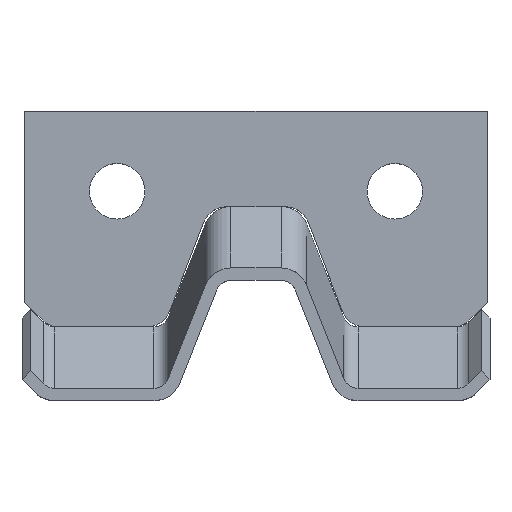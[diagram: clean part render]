
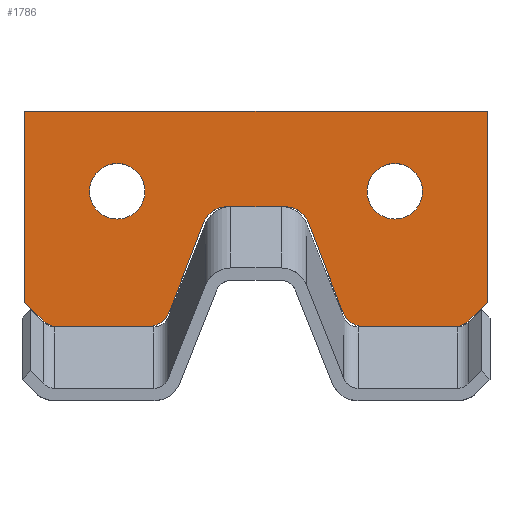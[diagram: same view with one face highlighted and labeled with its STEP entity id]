
A CAD part, top view. The second image highlights one B-rep face of the part: STEP entity #1786.
In plain terms, the highlighted planar face has unit normal (0, 0, 1).
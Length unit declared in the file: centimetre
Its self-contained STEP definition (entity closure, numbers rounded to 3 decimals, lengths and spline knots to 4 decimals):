
#86=FACE_BOUND('',#203,.T.);
#87=FACE_BOUND('',#204,.T.);
#94=FACE_OUTER_BOUND('',#202,.T.);
#202=EDGE_LOOP('',(#1188,#1189,#1190,#1191,#1192,#1193,#1194,#1195,#1196,
#1197,#1198,#1199,#1200,#1201,#1202,#1203,#1204,#1205));
#203=EDGE_LOOP('',(#1206));
#204=EDGE_LOOP('',(#1207));
#318=CIRCLE('',#1897,0.8);
#319=CIRCLE('',#1898,0.8);
#320=CIRCLE('',#1899,0.8);
#321=CIRCLE('',#1900,0.8);
#322=CIRCLE('',#1901,0.8);
#323=CIRCLE('',#1902,0.8);
#324=CIRCLE('',#1903,0.9);
#325=CIRCLE('',#1904,0.9);
#362=LINE('',#2630,#562);
#363=LINE('',#2634,#563);
#364=LINE('',#2638,#564);
#365=LINE('',#2642,#565);
#366=LINE('',#2644,#566);
#367=LINE('',#2646,#567);
#368=LINE('',#2648,#568);
#369=LINE('',#2650,#569);
#370=LINE('',#2654,#570);
#371=LINE('',#2658,#571);
#372=LINE('',#2662,#572);
#373=LINE('',#2663,#573);
#562=VECTOR('',#2076,0.1);
#563=VECTOR('',#2079,0.1);
#564=VECTOR('',#2082,0.1);
#565=VECTOR('',#2085,0.1);
#566=VECTOR('',#2086,0.1);
#567=VECTOR('',#2087,0.1);
#568=VECTOR('',#2088,0.1);
#569=VECTOR('',#2089,0.1);
#570=VECTOR('',#2092,0.1);
#571=VECTOR('',#2095,0.1);
#572=VECTOR('',#2098,0.1);
#573=VECTOR('',#2099,0.1);
#762=VERTEX_POINT('',#2628);
#763=VERTEX_POINT('',#2629);
#764=VERTEX_POINT('',#2631);
#765=VERTEX_POINT('',#2633);
#766=VERTEX_POINT('',#2635);
#767=VERTEX_POINT('',#2637);
#768=VERTEX_POINT('',#2639);
#769=VERTEX_POINT('',#2641);
#770=VERTEX_POINT('',#2643);
#771=VERTEX_POINT('',#2645);
#772=VERTEX_POINT('',#2647);
#773=VERTEX_POINT('',#2649);
#774=VERTEX_POINT('',#2651);
#775=VERTEX_POINT('',#2653);
#776=VERTEX_POINT('',#2655);
#777=VERTEX_POINT('',#2657);
#778=VERTEX_POINT('',#2659);
#779=VERTEX_POINT('',#2661);
#780=VERTEX_POINT('',#2664);
#781=VERTEX_POINT('',#2666);
#920=EDGE_CURVE('',#762,#763,#362,.T.);
#921=EDGE_CURVE('',#763,#764,#318,.T.);
#922=EDGE_CURVE('',#764,#765,#363,.T.);
#923=EDGE_CURVE('',#765,#766,#319,.T.);
#924=EDGE_CURVE('',#767,#766,#364,.T.);
#925=EDGE_CURVE('',#767,#768,#320,.T.);
#926=EDGE_CURVE('',#768,#769,#365,.T.);
#927=EDGE_CURVE('',#769,#770,#366,.T.);
#928=EDGE_CURVE('',#770,#771,#367,.T.);
#929=EDGE_CURVE('',#771,#772,#368,.T.);
#930=EDGE_CURVE('',#772,#773,#369,.T.);
#931=EDGE_CURVE('',#773,#774,#321,.T.);
#932=EDGE_CURVE('',#775,#774,#370,.T.);
#933=EDGE_CURVE('',#775,#776,#322,.T.);
#934=EDGE_CURVE('',#776,#777,#371,.T.);
#935=EDGE_CURVE('',#777,#778,#323,.T.);
#936=EDGE_CURVE('',#778,#779,#372,.T.);
#937=EDGE_CURVE('',#762,#779,#373,.T.);
#938=EDGE_CURVE('',#780,#780,#324,.T.);
#939=EDGE_CURVE('',#781,#781,#325,.T.);
#1188=ORIENTED_EDGE('',*,*,#920,.T.);
#1189=ORIENTED_EDGE('',*,*,#921,.T.);
#1190=ORIENTED_EDGE('',*,*,#922,.T.);
#1191=ORIENTED_EDGE('',*,*,#923,.T.);
#1192=ORIENTED_EDGE('',*,*,#924,.F.);
#1193=ORIENTED_EDGE('',*,*,#925,.T.);
#1194=ORIENTED_EDGE('',*,*,#926,.T.);
#1195=ORIENTED_EDGE('',*,*,#927,.T.);
#1196=ORIENTED_EDGE('',*,*,#928,.T.);
#1197=ORIENTED_EDGE('',*,*,#929,.T.);
#1198=ORIENTED_EDGE('',*,*,#930,.T.);
#1199=ORIENTED_EDGE('',*,*,#931,.T.);
#1200=ORIENTED_EDGE('',*,*,#932,.F.);
#1201=ORIENTED_EDGE('',*,*,#933,.T.);
#1202=ORIENTED_EDGE('',*,*,#934,.T.);
#1203=ORIENTED_EDGE('',*,*,#935,.T.);
#1204=ORIENTED_EDGE('',*,*,#936,.T.);
#1205=ORIENTED_EDGE('',*,*,#937,.F.);
#1206=ORIENTED_EDGE('',*,*,#938,.T.);
#1207=ORIENTED_EDGE('',*,*,#939,.T.);
#1724=PLANE('',#1896);
#1786=ADVANCED_FACE('',(#94,#86,#87),#1724,.T.);
#1896=AXIS2_PLACEMENT_3D('',#2627,#2074,#2075);
#1897=AXIS2_PLACEMENT_3D('',#2632,#2077,#2078);
#1898=AXIS2_PLACEMENT_3D('',#2636,#2080,#2081);
#1899=AXIS2_PLACEMENT_3D('',#2640,#2083,#2084);
#1900=AXIS2_PLACEMENT_3D('',#2652,#2090,#2091);
#1901=AXIS2_PLACEMENT_3D('',#2656,#2093,#2094);
#1902=AXIS2_PLACEMENT_3D('',#2660,#2096,#2097);
#1903=AXIS2_PLACEMENT_3D('',#2665,#2100,#2101);
#1904=AXIS2_PLACEMENT_3D('',#2667,#2102,#2103);
#2074=DIRECTION('center_axis',(0.,0.,1.));
#2075=DIRECTION('ref_axis',(1.,0.,0.));
#2076=DIRECTION('',(1.,0.,0.));
#2077=DIRECTION('center_axis',(0.,0.,-1.));
#2078=DIRECTION('ref_axis',(0.566,0.824,0.));
#2079=DIRECTION('',(0.359,-0.933,0.));
#2080=DIRECTION('center_axis',(0.,0.,1.));
#2081=DIRECTION('ref_axis',(-0.566,-0.824,0.));
#2082=DIRECTION('',(-1.,0.,0.));
#2083=DIRECTION('center_axis',(0.,0.,1.));
#2084=DIRECTION('ref_axis',(0.383,-0.924,0.));
#2085=DIRECTION('',(0.707,0.707,0.));
#2086=DIRECTION('',(0.,1.,0.));
#2087=DIRECTION('',(-1.,0.,0.));
#2088=DIRECTION('',(0.,-1.,0.));
#2089=DIRECTION('',(0.707,-0.707,0.));
#2090=DIRECTION('center_axis',(0.,0.,1.));
#2091=DIRECTION('ref_axis',(-0.383,-0.924,0.));
#2092=DIRECTION('',(-1.,0.,0.));
#2093=DIRECTION('center_axis',(0.,0.,1.));
#2094=DIRECTION('ref_axis',(0.566,-0.824,0.));
#2095=DIRECTION('',(0.359,0.933,0.));
#2096=DIRECTION('center_axis',(0.,0.,-1.));
#2097=DIRECTION('ref_axis',(-0.566,0.824,0.));
#2098=DIRECTION('',(1.,0.,0.));
#2099=DIRECTION('',(-1.,0.,0.));
#2100=DIRECTION('center_axis',(0.,0.,-1.));
#2101=DIRECTION('ref_axis',(1.,0.,0.));
#2102=DIRECTION('center_axis',(0.,0.,-1.));
#2103=DIRECTION('ref_axis',(1.,0.,0.));
#2627=CARTESIAN_POINT('Origin',(51.334,2457.5471,1.));
#2628=CARTESIAN_POINT('',(48.6447,2457.0471,1.));
#2629=CARTESIAN_POINT('',(48.7846,2457.0471,1.));
#2630=CARTESIAN_POINT('',(46.8834,2457.0471,1.));
#2631=CARTESIAN_POINT('',(49.5312,2456.5343,1.));
#2632=CARTESIAN_POINT('Origin',(48.7846,2456.2471,1.));
#2633=CARTESIAN_POINT('',(50.6368,2453.6599,1.));
#2634=CARTESIAN_POINT('',(49.5312,2456.5343,1.));
#2635=CARTESIAN_POINT('',(51.3834,2453.1471,1.));
#2636=CARTESIAN_POINT('Origin',(51.3834,2453.9471,1.));
#2637=CARTESIAN_POINT('',(54.2026,2453.1471,1.));
#2638=CARTESIAN_POINT('',(51.2394,2453.1471,1.));
#2639=CARTESIAN_POINT('',(54.7683,2453.3814,1.));
#2640=CARTESIAN_POINT('Origin',(54.2026,2453.9471,1.));
#2641=CARTESIAN_POINT('',(55.334,2453.9471,1.));
#2642=CARTESIAN_POINT('',(54.7683,2453.3814,1.));
#2643=CARTESIAN_POINT('',(55.334,2460.1471,1.));
#2644=CARTESIAN_POINT('',(55.334,2453.9471,1.));
#2645=CARTESIAN_POINT('',(40.334,2460.1471,1.));
#2646=CARTESIAN_POINT('',(55.334,2460.1471,1.));
#2647=CARTESIAN_POINT('',(40.334,2453.9471,1.));
#2648=CARTESIAN_POINT('',(40.334,2460.1471,1.));
#2649=CARTESIAN_POINT('',(40.8997,2453.3814,1.));
#2650=CARTESIAN_POINT('',(40.334,2453.9471,1.));
#2651=CARTESIAN_POINT('',(41.4654,2453.1471,1.));
#2652=CARTESIAN_POINT('Origin',(41.4654,2453.9471,1.));
#2653=CARTESIAN_POINT('',(44.2846,2453.1471,1.));
#2654=CARTESIAN_POINT('',(46.3214,2453.1471,1.));
#2655=CARTESIAN_POINT('',(45.0312,2453.6599,1.));
#2656=CARTESIAN_POINT('Origin',(44.2846,2453.9471,1.));
#2657=CARTESIAN_POINT('',(46.1368,2456.5343,1.));
#2658=CARTESIAN_POINT('',(45.0312,2453.6599,1.));
#2659=CARTESIAN_POINT('',(46.8834,2457.0471,1.));
#2660=CARTESIAN_POINT('Origin',(46.8834,2456.2471,1.));
#2661=CARTESIAN_POINT('',(47.0233,2457.0471,1.));
#2662=CARTESIAN_POINT('',(46.8834,2457.0471,1.));
#2663=CARTESIAN_POINT('',(49.1787,2457.0471,1.));
#2664=CARTESIAN_POINT('',(42.434,2457.5471,1.));
#2665=CARTESIAN_POINT('Origin',(43.334,2457.5471,1.));
#2666=CARTESIAN_POINT('',(51.434,2457.5471,1.));
#2667=CARTESIAN_POINT('Origin',(52.334,2457.5471,1.));
